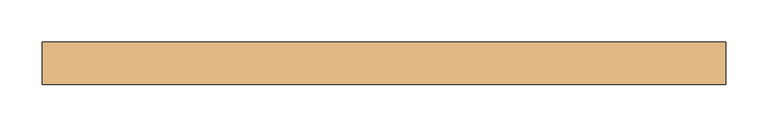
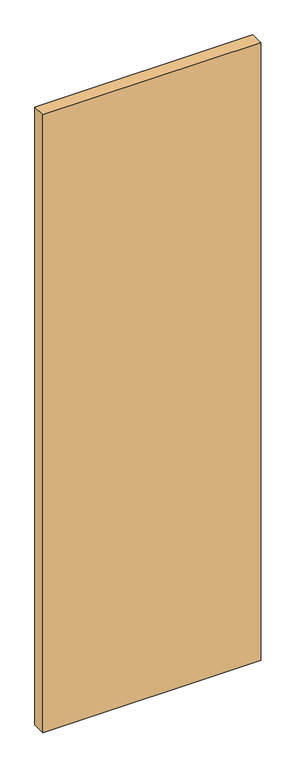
"""IFC4 building model written with IfcOpenShell, lengths in millimetres: door geometry, Planitar - Swap_Flush Panel : Planitar - Swap_Flush Panel."""

from ifc_helpers import new_model, si_unit, origin, origin_with_axes, place, context, project, spatial, polyline, outline, extrude, source, transform, mapped, element, save


def door_63bbe5dc(model_context):
    return source(origin(), model_context, "Body", "SweptSolid", [
        extrude(outline(polyline([(406.4, 25.4), (406.4, -25.4), (-406.4, -25.4), (-406.4, 25.4), (406.4, 25.4)])), origin_with_axes(), (0.0, 0.0, 1.0), 2438.4),
    ])


if __name__ == "__main__":
    model = new_model("IFC4")
    model_context = context("Model", 3, world=origin())
    ifc_project = project(units=[si_unit("LENGTHUNIT", "METRE", prefix="MILLI")], contexts=[model_context])
    site = spatial("IfcSite", under=ifc_project)
    building = spatial("IfcBuilding", under=site)
    placement = place(None, origin())
    door_shape = door_63bbe5dc(model_context)
    element("IfcDoor", 1, ObjectType="Planitar - Swap_Flush Panel : Planitar - Swap_Flush Panel", at=placement, inside=building, context=model_context, shape_type="MappedRepresentation", body=[
        mapped(door_shape, transform((0.0, 0.0, 0.0), x_axis=(1.0, 0.0, 0.0), y_axis=(0.0, 1.0, 0.0), z_axis=(0.0, 0.0, 1.0))),
    ])
    save(model, "model.ifc")
